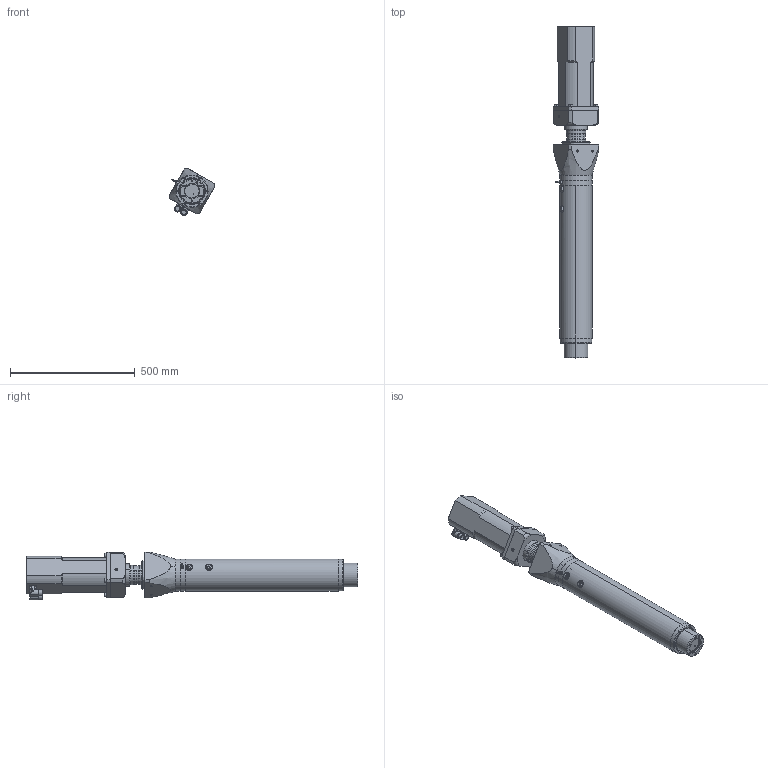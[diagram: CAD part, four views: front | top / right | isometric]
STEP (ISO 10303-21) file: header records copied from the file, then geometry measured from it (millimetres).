
FILE_DESCRIPTION (( 'STEP AP203' ), '1' );
FILE_NAME ('LN5I0300-035-025HG0.STEP', '2014-11-03T10:02:36', ( 'Holtz' ), ( '' ), 'SwSTEP 2.0', 'SolidWorks 2013', '' );
FILE_SCHEMA (( 'CONFIG_CONTROL_DESIGN' ));
Length unit declared in the file: millimetre
Products named in the file (1): LN5I0300-035-025HG0
Bounding box: 183.24 x 1332.5 x 190.57 mm (x, y, z)
Volume: 14241879 mm3; surface area: 1368386 mm2
Topology: 23 solids, 23 shells, 959 faces, 2253 edges, 1349 vertices
Faces by surface type: cylinder 399, plane 330, cone 178, torus 48, bspline 2, sphere 2
Entity records: 28702 total; most frequent: CARTESIAN_POINT 6540, DIRECTION 4921, ORIENTED_EDGE 4270, EDGE_CURVE 2135, AXIS2_PLACEMENT_3D 1918, VERTEX_POINT 1349, EDGE_LOOP 1154, LINE 1085
